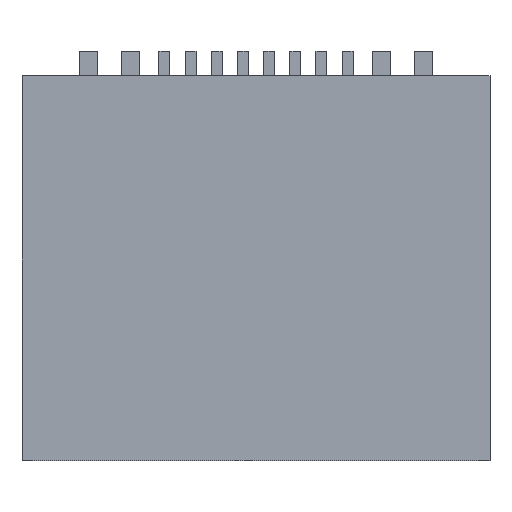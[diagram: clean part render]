
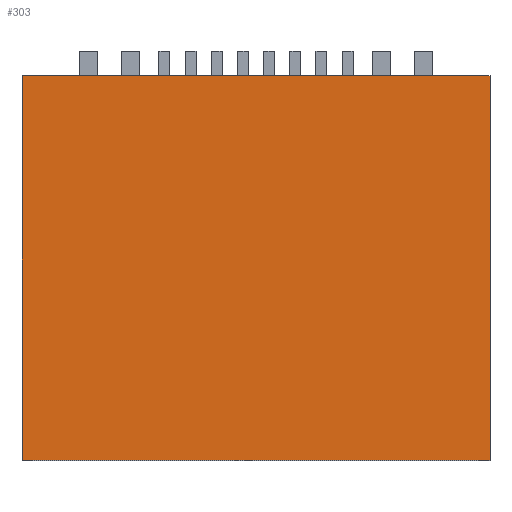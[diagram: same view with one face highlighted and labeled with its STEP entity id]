
A CAD part, top view. The second image highlights one B-rep face of the part: STEP entity #303.
In plain terms, the highlighted planar face has unit normal (0, 0, 1).
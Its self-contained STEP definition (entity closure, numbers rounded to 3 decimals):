
#174 = VERTEX_POINT('',#175);
#175 = CARTESIAN_POINT('',(-4.47,-3.675,3.26));
#181 = EDGE_CURVE('',#174,#182,#184,.T.);
#182 = VERTEX_POINT('',#183);
#183 = CARTESIAN_POINT('',(4.47,-3.675,3.26));
#184 = LINE('',#185,#186);
#185 = CARTESIAN_POINT('',(-4.47,-3.675,3.26));
#186 = VECTOR('',#187,1.);
#187 = DIRECTION('',(1.,0.,0.));
#212 = EDGE_CURVE('',#182,#213,#215,.T.);
#213 = VERTEX_POINT('',#214);
#214 = CARTESIAN_POINT('',(4.47,3.675,3.26));
#215 = LINE('',#216,#217);
#216 = CARTESIAN_POINT('',(4.47,-3.675,3.26));
#217 = VECTOR('',#218,1.);
#218 = DIRECTION('',(0.,1.,0.));
#243 = EDGE_CURVE('',#213,#244,#246,.T.);
#244 = VERTEX_POINT('',#245);
#245 = CARTESIAN_POINT('',(-4.47,3.675,3.26));
#246 = LINE('',#247,#248);
#247 = CARTESIAN_POINT('',(4.47,3.675,3.26));
#248 = VECTOR('',#249,1.);
#249 = DIRECTION('',(-1.,0.,0.));
#274 = EDGE_CURVE('',#244,#174,#275,.T.);
#275 = LINE('',#276,#277);
#276 = CARTESIAN_POINT('',(-4.47,3.675,3.26));
#277 = VECTOR('',#278,1.);
#278 = DIRECTION('',(0.,-1.,0.));
#303 = ADVANCED_FACE('',(#304),#310,.T.);
#304 = FACE_BOUND('',#305,.T.);
#305 = EDGE_LOOP('',(#306,#307,#308,#309));
#306 = ORIENTED_EDGE('',*,*,#181,.T.);
#307 = ORIENTED_EDGE('',*,*,#212,.T.);
#308 = ORIENTED_EDGE('',*,*,#243,.T.);
#309 = ORIENTED_EDGE('',*,*,#274,.T.);
#310 = PLANE('',#311);
#311 = AXIS2_PLACEMENT_3D('',#312,#313,#314);
#312 = CARTESIAN_POINT('',(0.,0.,3.26));
#313 = DIRECTION('',(0.,0.,1.));
#314 = DIRECTION('',(1.,0.,-0.));
